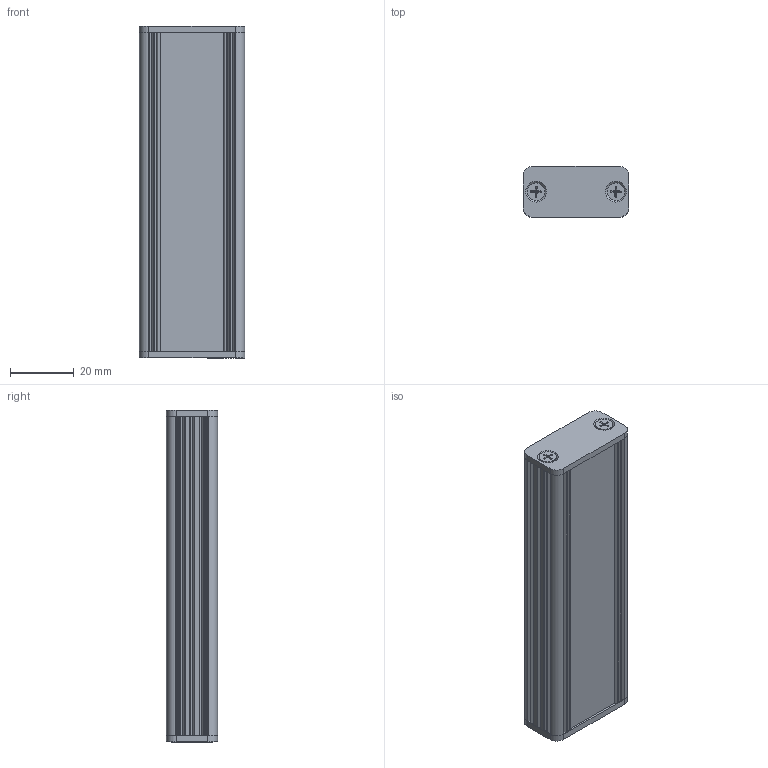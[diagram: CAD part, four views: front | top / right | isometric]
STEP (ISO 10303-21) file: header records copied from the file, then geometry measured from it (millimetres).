
FILE_DESCRIPTION((''),'2;1');
FILE_NAME('C:\Dokumente und Einstellungen\Lochen\Desktop\AKG\AKG_33_16_100.stp','2015-01-15T13:32:57',('Lochen'),(''),'Autodesk Inventor 2012','Autodesk Inventor 2012','');
FILE_SCHEMA(('AUTOMOTIVE_DESIGN { 1 0 10303 214 1 1 1 1 }'));
Length unit declared in the file: millimetre
Products named in the file (4): 001037631; 001031967; L0015SGD000000A; DIN EN ISO 7046-1 H M3 x 10 - 4.8 - H
Assembly tree (8 placements, depth 2):
  001037631
    001031967  x2
    L0015SGD000000A  x2
    DIN EN ISO 7046-1 H M3 x 10 - 4.8 - H  x4
Bounding box: 33 x 16 x 104 mm (x, y, z)
Volume: 20128.2 mm3; surface area: 26344.2 mm2
Topology: 8 solids, 8 shells, 348 faces, 968 edges, 636 vertices
Faces by surface type: plane 138, cylinder 138, cone 52, torus 20
Full cylindrical faces by diameter (mm): 2.693 x4, 3 x4, 3.4 x4, 5.5 x4
Entity records: 4870 total; most frequent: CARTESIAN_POINT 938, DIRECTION 836, ORIENTED_EDGE 784, EDGE_CURVE 392, AXIS2_PLACEMENT_3D 308, VERTEX_POINT 266, VECTOR 220, LINE 220
